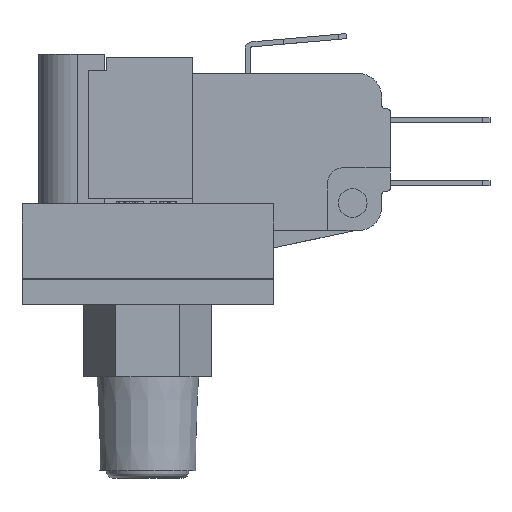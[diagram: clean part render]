
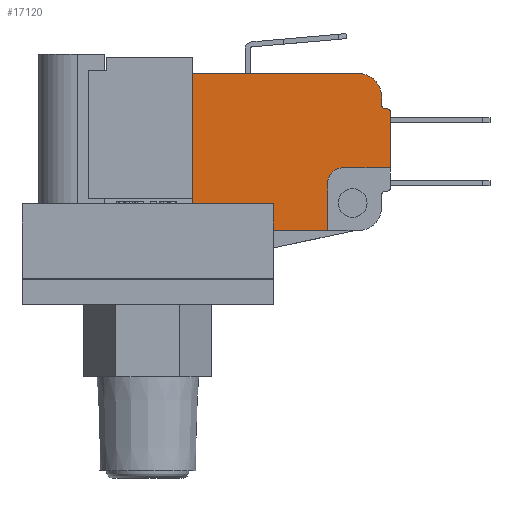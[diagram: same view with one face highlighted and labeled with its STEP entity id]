
A CAD part, left-side view. The second image highlights one B-rep face of the part: STEP entity #17120.
In plain terms, the highlighted planar face has unit normal (-1, 0, 0) as drawn and (0, 0, 1) by its records, which use the part's own axes.
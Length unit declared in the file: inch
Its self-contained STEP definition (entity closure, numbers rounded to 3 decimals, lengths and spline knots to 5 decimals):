
#16391=CARTESIAN_POINT('',(-0.7097,-0.17251,0.1925));
#16392=VERTEX_POINT('',#16391);
#16393=CARTESIAN_POINT('',(-0.7247,-0.15751,0.1925));
#16394=VERTEX_POINT('',#16393);
#16395=CARTESIAN_POINT('',(-0.7097,-0.15751,0.1925));
#16396=DIRECTION('',(0.0,0.0,-1.));
#16397=DIRECTION('',(-0.707,-0.707,0.0));
#16398=AXIS2_PLACEMENT_3D('',#16395,#16396,#16397);
#16399=CIRCLE('',#16398,0.015);
#16400=EDGE_CURVE('',#16392,#16394,#16399,.T.);
#16442=CARTESIAN_POINT('',(-0.7047,-0.17251,0.1925));
#16443=VERTEX_POINT('',#16442);
#16450=CARTESIAN_POINT('',(-0.7097,-0.17251,0.1925));
#16451=DIRECTION('',(1.0,0.0,0.0));
#16452=VECTOR('',#16451,0.005);
#16453=LINE('',#16450,#16452);
#16454=EDGE_CURVE('',#16392,#16443,#16453,.T.);
#16663=CARTESIAN_POINT('',(-0.6897,-0.18751,0.1925));
#16664=VERTEX_POINT('',#16663);
#16671=CARTESIAN_POINT('',(-0.7047,-0.18751,0.1925));
#16672=DIRECTION('',(0.0,0.0,1.));
#16673=DIRECTION('',(0.707,0.707,0.0));
#16674=AXIS2_PLACEMENT_3D('',#16671,#16672,#16673);
#16675=CIRCLE('',#16674,0.015);
#16676=EDGE_CURVE('',#16664,#16443,#16675,.T.);
#16689=CARTESIAN_POINT('',(-0.6897,-0.21871,0.1925));
#16690=VERTEX_POINT('',#16689);
#16697=CARTESIAN_POINT('',(-0.6897,-0.18751,0.1925));
#16698=DIRECTION('',(0.0,-1.0,0.0));
#16699=VECTOR('',#16698,0.0312);
#16700=LINE('',#16697,#16699);
#16701=EDGE_CURVE('',#16664,#16690,#16700,.T.);
#16847=CARTESIAN_POINT('',(-0.5967,-0.31171,0.1925));
#16848=VERTEX_POINT('',#16847);
#16855=CARTESIAN_POINT('',(-0.5967,-0.21871,0.1925));
#16856=DIRECTION('',(0.0,0.0,-1.));
#16857=DIRECTION('',(-0.707,-0.707,0.0));
#16858=AXIS2_PLACEMENT_3D('',#16855,#16856,#16857);
#16859=CIRCLE('',#16858,0.093);
#16860=EDGE_CURVE('',#16848,#16690,#16859,.T.);
#16961=CARTESIAN_POINT('',(-0.4747,0.31329,0.1925));
#16962=VERTEX_POINT('',#16961);
#16969=CARTESIAN_POINT('',(0.3173,0.31329,0.1925));
#16970=VERTEX_POINT('',#16969);
#16971=CARTESIAN_POINT('',(-0.4747,0.31329,0.1925));
#16972=DIRECTION('',(1.0,0.0,0.0));
#16973=VECTOR('',#16972,0.792);
#16974=LINE('',#16971,#16973);
#16975=EDGE_CURVE('',#16962,#16970,#16974,.T.);
#17028=CARTESIAN_POINT('',(-0.15786,0.00153,0.1925));
#17029=DIRECTION('',(0.0,0.0,1.0));
#17030=DIRECTION('',(1.0,0.0,0.0));
#17031=AXIS2_PLACEMENT_3D('',#17028,#17029,#17030);
#17032=PLANE('',#17031);
#17033=ORIENTED_EDGE('',*,*,#16400,.F.);
#17034=ORIENTED_EDGE('',*,*,#16454,.T.);
#17035=ORIENTED_EDGE('',*,*,#16676,.F.);
#17036=ORIENTED_EDGE('',*,*,#16701,.T.);
#17037=ORIENTED_EDGE('',*,*,#16860,.F.);
#17038=CARTESIAN_POINT('',(0.1503,-0.31171,0.1925));
#17039=VERTEX_POINT('',#17038);
#17040=CARTESIAN_POINT('',(0.1503,-0.31171,0.1925));
#17041=DIRECTION('',(-1.0,0.0,0.0));
#17042=VECTOR('',#17041,0.747);
#17043=LINE('',#17040,#17042);
#17044=EDGE_CURVE('',#17039,#16848,#17043,.T.);
#17045=ORIENTED_EDGE('',*,*,#17044,.F.);
#17046=CARTESIAN_POINT('',(0.1503,-0.12171,0.1925));
#17047=VERTEX_POINT('',#17046);
#17048=CARTESIAN_POINT('',(0.1503,-0.31171,0.1925));
#17049=DIRECTION('',(0.0,1.0,0.0));
#17050=VECTOR('',#17049,0.19);
#17051=LINE('',#17048,#17050);
#17052=EDGE_CURVE('',#17039,#17047,#17051,.T.);
#17053=ORIENTED_EDGE('',*,*,#17052,.T.);
#17054=CARTESIAN_POINT('',(0.2103,-0.06171,0.1925));
#17055=VERTEX_POINT('',#17054);
#17056=CARTESIAN_POINT('',(0.2103,-0.12171,0.1925));
#17057=DIRECTION('',(0.0,0.0,-1.0));
#17058=DIRECTION('',(0.0,1.0,0.0));
#17059=AXIS2_PLACEMENT_3D('',#17056,#17057,#17058);
#17060=CIRCLE('',#17059,0.06);
#17061=EDGE_CURVE('',#17047,#17055,#17060,.T.);
#17062=ORIENTED_EDGE('',*,*,#17061,.T.);
#17063=CARTESIAN_POINT('',(0.4103,-0.06171,0.1925));
#17064=VERTEX_POINT('',#17063);
#17065=CARTESIAN_POINT('',(0.2103,-0.06171,0.1925));
#17066=DIRECTION('',(1.0,0.0,0.0));
#17067=VECTOR('',#17066,0.2);
#17068=LINE('',#17065,#17067);
#17069=EDGE_CURVE('',#17055,#17064,#17068,.T.);
#17070=ORIENTED_EDGE('',*,*,#17069,.T.);
#17071=CARTESIAN_POINT('',(0.4103,0.22029,0.1925));
#17072=VERTEX_POINT('',#17071);
#17073=CARTESIAN_POINT('',(0.4103,0.22029,0.1925));
#17074=DIRECTION('',(0.0,-1.0,0.0));
#17075=VECTOR('',#17074,0.282);
#17076=LINE('',#17073,#17075);
#17077=EDGE_CURVE('',#17072,#17064,#17076,.T.);
#17078=ORIENTED_EDGE('',*,*,#17077,.F.);
#17079=CARTESIAN_POINT('',(0.3173,0.22029,0.1925));
#17080=DIRECTION('',(0.0,0.0,-1.));
#17081=DIRECTION('',(0.707,0.707,0.0));
#17082=AXIS2_PLACEMENT_3D('',#17079,#17080,#17081);
#17083=CIRCLE('',#17082,0.093);
#17084=EDGE_CURVE('',#16970,#17072,#17083,.T.);
#17085=ORIENTED_EDGE('',*,*,#17084,.F.);
#17086=ORIENTED_EDGE('',*,*,#16975,.F.);
#17087=CARTESIAN_POINT('',(-0.4747,0.12329,0.1925));
#17088=VERTEX_POINT('',#17087);
#17089=CARTESIAN_POINT('',(-0.4747,0.31329,0.1925));
#17090=DIRECTION('',(0.0,-1.0,0.0));
#17091=VECTOR('',#17090,0.19);
#17092=LINE('',#17089,#17091);
#17093=EDGE_CURVE('',#16962,#17088,#17092,.T.);
#17094=ORIENTED_EDGE('',*,*,#17093,.T.);
#17095=CARTESIAN_POINT('',(-0.5347,0.06329,0.1925));
#17096=VERTEX_POINT('',#17095);
#17097=CARTESIAN_POINT('',(-0.5347,0.12329,0.1925));
#17098=DIRECTION('',(0.0,0.0,-1.0));
#17099=DIRECTION('',(0.0,-1.0,0.0));
#17100=AXIS2_PLACEMENT_3D('',#17097,#17098,#17099);
#17101=CIRCLE('',#17100,0.06);
#17102=EDGE_CURVE('',#17088,#17096,#17101,.T.);
#17103=ORIENTED_EDGE('',*,*,#17102,.T.);
#17104=CARTESIAN_POINT('',(-0.7247,0.06329,0.1925));
#17105=VERTEX_POINT('',#17104);
#17106=CARTESIAN_POINT('',(-0.5347,0.06329,0.1925));
#17107=DIRECTION('',(-1.0,0.0,0.0));
#17108=VECTOR('',#17107,0.19);
#17109=LINE('',#17106,#17108);
#17110=EDGE_CURVE('',#17096,#17105,#17109,.T.);
#17111=ORIENTED_EDGE('',*,*,#17110,.T.);
#17112=CARTESIAN_POINT('',(-0.7247,-0.15751,0.1925));
#17113=DIRECTION('',(0.0,1.0,0.0));
#17114=VECTOR('',#17113,0.2208);
#17115=LINE('',#17112,#17114);
#17116=EDGE_CURVE('',#16394,#17105,#17115,.T.);
#17117=ORIENTED_EDGE('',*,*,#17116,.F.);
#17118=EDGE_LOOP('',(#17033,#17034,#17035,#17036,#17037,#17045,#17053,#17062,#17070,#17078,#17085,#17086,#17094,#17103,#17111,#17117));
#17119=FACE_OUTER_BOUND('',#17118,.T.);
#17120=ADVANCED_FACE('',(#17119),#17032,.T.);
